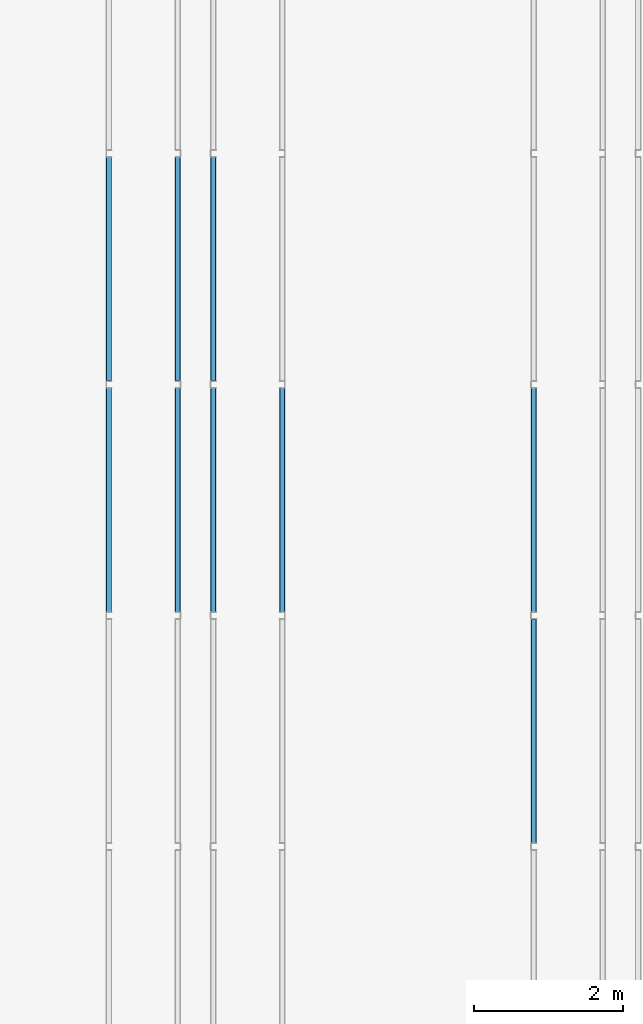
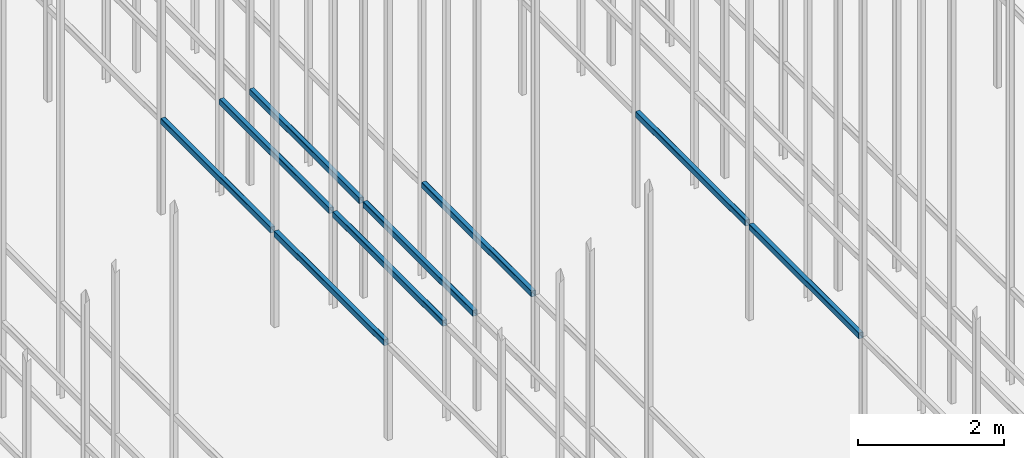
# One storey, part 148 of 302: 9 beams.
"""IFC2X3 building model written with IfcOpenShell, lengths in metres."""

from ifc_helpers import new_model, entity, si_unit, converted_unit, derived_unit, direction, frame, frame_2d, origin, place, context, subcontext, project, spatial, polyline, circle_curve, parameter, trimmed, segment, composite_curve, outline, extrude, material, type_object, element, save


model = new_model("IFC2X3")

# Units and contexts
model_context = context("Model", 3, precision=1e-05, world=origin(), true_north=direction((6.12303176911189e-17, 1.0)))
body_context = subcontext(model_context, "Body", "Model", "MODEL_VIEW")
ifc_project = project(units=[si_unit("LENGTHUNIT", "METRE"), si_unit("AREAUNIT", "SQUARE_METRE"), si_unit("VOLUMEUNIT", "CUBIC_METRE"), converted_unit("PLANEANGLEUNIT", "DEGREE", entity("IfcRatioMeasure", 0.0174532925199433), si_unit("PLANEANGLEUNIT", "RADIAN"), dimensions=[0, 0, 0, 0, 0, 0, 0]), si_unit("MASSUNIT", "GRAM", prefix="KILO"), derived_unit("MASSDENSITYUNIT", [(si_unit("MASSUNIT", "GRAM", prefix="KILO"), 1), (si_unit("LENGTHUNIT", "METRE"), -3)]), derived_unit("MOMENTOFINERTIAUNIT", [(si_unit("LENGTHUNIT", "METRE"), 4)]), si_unit("TIMEUNIT", "SECOND"), si_unit("FREQUENCYUNIT", "HERTZ"), si_unit("THERMODYNAMICTEMPERATUREUNIT", "DEGREE_CELSIUS"), derived_unit("THERMALTRANSMITTANCEUNIT", [(si_unit("MASSUNIT", "GRAM", prefix="KILO"), 1), (si_unit("THERMODYNAMICTEMPERATUREUNIT", "KELVIN"), -1), (si_unit("TIMEUNIT", "SECOND"), -3)]), derived_unit("VOLUMETRICFLOWRATEUNIT", [(si_unit("LENGTHUNIT", "METRE"), 3), (si_unit("TIMEUNIT", "SECOND"), -1)]), si_unit("ELECTRICCURRENTUNIT", "AMPERE"), si_unit("ELECTRICVOLTAGEUNIT", "VOLT"), si_unit("POWERUNIT", "WATT"), si_unit("FORCEUNIT", "NEWTON", prefix="KILO"), si_unit("ILLUMINANCEUNIT", "LUX"), si_unit("LUMINOUSFLUXUNIT", "LUMEN"), si_unit("LUMINOUSINTENSITYUNIT", "CANDELA"), derived_unit("USERDEFINED", [(si_unit("MASSUNIT", "GRAM", prefix="KILO"), -1), (si_unit("LENGTHUNIT", "METRE"), -2), (si_unit("TIMEUNIT", "SECOND"), 3), (si_unit("LUMINOUSFLUXUNIT", "LUMEN"), 1)]), derived_unit("LINEARVELOCITYUNIT", [(si_unit("LENGTHUNIT", "METRE"), 1), (si_unit("TIMEUNIT", "SECOND"), -1)]), si_unit("PRESSUREUNIT", "PASCAL"), derived_unit("USERDEFINED", [(si_unit("LENGTHUNIT", "METRE"), -2), (si_unit("MASSUNIT", "GRAM", prefix="KILO"), 1), (si_unit("TIMEUNIT", "SECOND"), -2)]), derived_unit("LINEARFORCEUNIT", [(si_unit("MASSUNIT", "GRAM", prefix="KILO"), 1), (si_unit("LENGTHUNIT", "METRE"), 1), (si_unit("TIMEUNIT", "SECOND"), -2), (si_unit("LENGTHUNIT", "METRE"), -1)]), derived_unit("PLANARFORCEUNIT", [(si_unit("MASSUNIT", "GRAM", prefix="KILO"), 1), (si_unit("LENGTHUNIT", "METRE"), 1), (si_unit("TIMEUNIT", "SECOND"), -2), (si_unit("LENGTHUNIT", "METRE"), -2)])], contexts=[model_context])

# Site, building, storey
site_placement = place(None, origin())
site = spatial("IfcSite", under=ifc_project, at=site_placement, Name="Default", CompositionType="ELEMENT")
building_placement = place(site_placement, origin())
building = spatial("IfcBuilding", under=site, at=building_placement, CompositionType="ELEMENT")
storey_placement = place(building_placement, frame((0.0, 0.0, -1.3)))
storey = spatial("IfcBuildingStorey", under=building, at=storey_placement, Name="00_EG", CompositionType="ELEMENT", Elevation=-1.3)

# Beams
ifc_material = material(Name="Metall - Baustahl S235 blau")
beam_type = type_object("IfcBeamType", Name="RHS Träger (EN 10219-2):RHS 100 x 75 x 5", PredefinedType="NOTDEFINED")
beam_1_placement = place(storey_placement, frame((-185.015111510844, 30.248088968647, 2.885), z_axis=(0.0, 0.0, 1.0), x_axis=(0.0, 1.0, 0.0)))
element("IfcBeam", 1, at=beam_1_placement, inside=storey, type_object=beam_type, material=ifc_material, Name="RHS Träger (EN 10219-2):RHS 100 x 75 x 5", ObjectType="RHS Träger (EN 10219-2):RHS 100 x 75 x 5", context=body_context, shape_type="SweptSolid", body=[
    extrude(outline(composite_curve([segment(trimmed(circle_curve(frame_2d((-0.0274999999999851, -0.0400000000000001), x_axis=(1.0, 0.0)), 0.01), [parameter(180.0)], [parameter(270.0)], True, "PARAMETER"), True, "CONTINUOUS"), segment(polyline([(-0.0274999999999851, -0.05), (0.0274999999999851, -0.05)]), True, "CONTINUOUS"), segment(trimmed(circle_curve(frame_2d((0.0274999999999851, -0.0400000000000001), x_axis=(1.0, 0.0)), 0.01), [parameter(270.0)], [parameter(5.08888749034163e-14)], True, "PARAMETER"), True, "CONTINUOUS"), segment(polyline([(0.0375000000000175, -0.0399999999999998), (0.0375000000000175, 0.0400000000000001)]), True, "CONTINUOUS"), segment(trimmed(circle_curve(frame_2d((0.0274999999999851, 0.0399999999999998), x_axis=(1.0, 0.0)), 0.01), [parameter(360.0)], [parameter(89.9999999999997)], True, "PARAMETER"), True, "CONTINUOUS"), segment(polyline([(0.0274999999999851, 0.05), (-0.0274999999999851, 0.05)]), True, "CONTINUOUS"), segment(trimmed(circle_curve(frame_2d((-0.0274999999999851, 0.0399999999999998), x_axis=(1.0, 0.0)), 0.01), [parameter(90.0000000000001)], [parameter(180.0)], True, "PARAMETER"), True, "CONTINUOUS"), segment(polyline([(-0.0374999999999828, 0.0400000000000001), (-0.0374999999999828, -0.0399999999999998)]), True, "CONTINUOUS")], self_intersect=False), holes=[composite_curve([segment(polyline([(0.0274999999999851, -0.0450000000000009), (-0.0274999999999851, -0.0450000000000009)]), True, "CONTINUOUS"), segment(trimmed(circle_curve(frame_2d((-0.0274999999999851, -0.0400000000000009), x_axis=(1.0, 0.0)), 0.005), [parameter(180.0)], [parameter(270.0)], True, "PARAMETER"), False, "CONTINUOUS"), segment(polyline([(-0.0325000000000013, -0.0400000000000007), (-0.0325000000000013, 0.0399999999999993)]), True, "CONTINUOUS"), segment(trimmed(circle_curve(frame_2d((-0.0274999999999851, 0.039999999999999), x_axis=(1.0, 0.0)), 0.005), [parameter(90.0000000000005)], [parameter(180.0)], True, "PARAMETER"), False, "CONTINUOUS"), segment(polyline([(-0.0274999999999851, 0.0449999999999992), (0.0274999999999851, 0.0449999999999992)]), True, "CONTINUOUS"), segment(trimmed(circle_curve(frame_2d((0.0274999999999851, 0.039999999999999), x_axis=(1.0, 0.0)), 0.005), [parameter(0.0)], [parameter(90.0000000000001)], True, "PARAMETER"), False, "CONTINUOUS"), segment(polyline([(0.0325000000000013, 0.0399999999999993), (0.0325000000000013, -0.0400000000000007)]), True, "CONTINUOUS"), segment(trimmed(circle_curve(frame_2d((0.0274999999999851, -0.0400000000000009), x_axis=(1.0, 0.0)), 0.005), [parameter(270.0)], [parameter(4.07110999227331e-13)], True, "PARAMETER"), False, "CONTINUOUS")], self_intersect=False)]), frame((9.99999999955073e-05, 0.0375000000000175, -0.0500000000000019), z_axis=(1.0, 0.0, 0.0), x_axis=(0.0, -1.0, 0.0)), (0.0, 0.0, 1.0), 2.9998),
])
beam_2_placement = place(storey_placement, frame((-190.715111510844, 33.348088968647, 2.885), z_axis=(0.0, 0.0, 1.0), x_axis=(0.0, 1.0, 0.0)))
element("IfcBeam", 2, at=beam_2_placement, inside=storey, type_object=beam_type, material=ifc_material, Name="RHS Träger (EN 10219-2):RHS 100 x 75 x 5", ObjectType="RHS Träger (EN 10219-2):RHS 100 x 75 x 5", context=body_context, shape_type="SweptSolid", body=[
    extrude(outline(composite_curve([segment(trimmed(circle_curve(frame_2d((-0.0274999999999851, -0.0400000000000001), x_axis=(1.0, 0.0)), 0.01), [parameter(180.0)], [parameter(270.0)], True, "PARAMETER"), True, "CONTINUOUS"), segment(polyline([(-0.0274999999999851, -0.05), (0.0274999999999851, -0.05)]), True, "CONTINUOUS"), segment(trimmed(circle_curve(frame_2d((0.0274999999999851, -0.0400000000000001), x_axis=(1.0, 0.0)), 0.01), [parameter(270.0)], [parameter(5.08888749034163e-14)], True, "PARAMETER"), True, "CONTINUOUS"), segment(polyline([(0.0375000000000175, -0.0399999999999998), (0.0375000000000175, 0.0400000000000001)]), True, "CONTINUOUS"), segment(trimmed(circle_curve(frame_2d((0.0274999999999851, 0.0399999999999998), x_axis=(1.0, 0.0)), 0.01), [parameter(360.0)], [parameter(89.9999999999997)], True, "PARAMETER"), True, "CONTINUOUS"), segment(polyline([(0.0274999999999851, 0.05), (-0.0274999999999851, 0.05)]), True, "CONTINUOUS"), segment(trimmed(circle_curve(frame_2d((-0.0274999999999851, 0.0399999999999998), x_axis=(1.0, 0.0)), 0.01), [parameter(90.0000000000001)], [parameter(180.0)], True, "PARAMETER"), True, "CONTINUOUS"), segment(polyline([(-0.0374999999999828, 0.0400000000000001), (-0.0374999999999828, -0.0399999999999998)]), True, "CONTINUOUS")], self_intersect=False), holes=[composite_curve([segment(polyline([(0.0274999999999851, -0.0450000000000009), (-0.0274999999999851, -0.0450000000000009)]), True, "CONTINUOUS"), segment(trimmed(circle_curve(frame_2d((-0.0274999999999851, -0.0400000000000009), x_axis=(1.0, 0.0)), 0.005), [parameter(180.0)], [parameter(270.0)], True, "PARAMETER"), False, "CONTINUOUS"), segment(polyline([(-0.0325000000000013, -0.0400000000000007), (-0.0325000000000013, 0.0399999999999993)]), True, "CONTINUOUS"), segment(trimmed(circle_curve(frame_2d((-0.0274999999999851, 0.039999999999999), x_axis=(1.0, 0.0)), 0.005), [parameter(90.0000000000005)], [parameter(180.0)], True, "PARAMETER"), False, "CONTINUOUS"), segment(polyline([(-0.0274999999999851, 0.0449999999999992), (0.0274999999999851, 0.0449999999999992)]), True, "CONTINUOUS"), segment(trimmed(circle_curve(frame_2d((0.0274999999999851, 0.039999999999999), x_axis=(1.0, 0.0)), 0.005), [parameter(0.0)], [parameter(90.0000000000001)], True, "PARAMETER"), False, "CONTINUOUS"), segment(polyline([(0.0325000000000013, 0.0399999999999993), (0.0325000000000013, -0.0400000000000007)]), True, "CONTINUOUS"), segment(trimmed(circle_curve(frame_2d((0.0274999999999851, -0.0400000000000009), x_axis=(1.0, 0.0)), 0.005), [parameter(270.0)], [parameter(4.07110999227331e-13)], True, "PARAMETER"), False, "CONTINUOUS")], self_intersect=False)]), frame((9.99999999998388e-05, 0.0375000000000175, -0.0500000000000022), z_axis=(1.0, 0.0, 0.0), x_axis=(0.0, -1.0, 0.0)), (0.0, 0.0, 1.0), 2.9998),
])
beam_3_placement = place(storey_placement, frame((-189.865111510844, 33.348088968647, 2.885), z_axis=(0.0, 0.0, 1.0), x_axis=(0.0, 1.0, 0.0)))
element("IfcBeam", 3, at=beam_3_placement, inside=storey, type_object=beam_type, material=ifc_material, Name="RHS Träger (EN 10219-2):RHS 100 x 75 x 5", ObjectType="RHS Träger (EN 10219-2):RHS 100 x 75 x 5", context=body_context, shape_type="SweptSolid", body=[
    extrude(outline(composite_curve([segment(polyline([(-0.0399999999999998, -0.0375000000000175), (0.0400000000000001, -0.0375000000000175)]), True, "CONTINUOUS"), segment(trimmed(circle_curve(frame_2d((0.0399999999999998, -0.0275000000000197), x_axis=(0.0, 1.0)), 0.01), [parameter(180.0)], [parameter(270.0)], True, "PARAMETER"), True, "CONTINUOUS"), segment(polyline([(0.05, -0.0275000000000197), (0.05, 0.0274999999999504)]), True, "CONTINUOUS"), segment(trimmed(circle_curve(frame_2d((0.0399999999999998, 0.0274999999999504), x_axis=(0.0, 1.0)), 0.01), [parameter(270.0)], [parameter(4.07110999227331e-13)], True, "PARAMETER"), True, "CONTINUOUS"), segment(polyline([(0.0400000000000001, 0.0374999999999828), (-0.0399999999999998, 0.0374999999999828)]), True, "CONTINUOUS"), segment(trimmed(circle_curve(frame_2d((-0.0400000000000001, 0.0274999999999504), x_axis=(0.0, 1.0)), 0.01), [parameter(360.0)], [parameter(90.0000000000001)], True, "PARAMETER"), True, "CONTINUOUS"), segment(polyline([(-0.05, 0.0274999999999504), (-0.05, -0.0275000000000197)]), True, "CONTINUOUS"), segment(trimmed(circle_curve(frame_2d((-0.0400000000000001, -0.0275000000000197), x_axis=(0.0, 1.0)), 0.01), [parameter(90.0000000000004)], [parameter(180.0)], True, "PARAMETER"), True, "CONTINUOUS")], self_intersect=False), holes=[composite_curve([segment(trimmed(circle_curve(frame_2d((-0.0400000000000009, 0.0274999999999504), x_axis=(0.0, 1.0)), 0.005), [parameter(360.0)], [parameter(89.9999999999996)], True, "PARAMETER"), False, "CONTINUOUS"), segment(polyline([(-0.0400000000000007, 0.0324999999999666), (0.0399999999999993, 0.0324999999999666)]), True, "CONTINUOUS"), segment(trimmed(circle_curve(frame_2d((0.039999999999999, 0.0274999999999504), x_axis=(0.0, 1.0)), 0.005), [parameter(270.0)], [parameter(0.0)], True, "PARAMETER"), False, "CONTINUOUS"), segment(polyline([(0.0449999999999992, 0.0274999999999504), (0.0449999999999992, -0.0275000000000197)]), True, "CONTINUOUS"), segment(trimmed(circle_curve(frame_2d((0.039999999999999, -0.0275000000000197), x_axis=(0.0, 1.0)), 0.005), [parameter(180.0)], [parameter(269.999999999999)], True, "PARAMETER"), False, "CONTINUOUS"), segment(polyline([(0.0399999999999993, -0.0325000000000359), (-0.0400000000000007, -0.0325000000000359)]), True, "CONTINUOUS"), segment(trimmed(circle_curve(frame_2d((-0.0400000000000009, -0.0275000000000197), x_axis=(0.0, 1.0)), 0.005), [parameter(90.0000000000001)], [parameter(180.0)], True, "PARAMETER"), False, "CONTINUOUS"), segment(polyline([(-0.0450000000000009, -0.0275000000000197), (-0.0450000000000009, 0.0274999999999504)]), True, "CONTINUOUS")], self_intersect=False)]), frame((9.99999999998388e-05, -0.0374999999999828, -0.0500000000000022), z_axis=(1.0, 0.0, 0.0), x_axis=(0.0, 0.0, -1.0)), (0.0, 0.0, 1.0), 2.9998),
])
beam_4_placement = place(storey_placement, frame((-189.315111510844, 33.348088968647, 2.885), z_axis=(0.0, 0.0, 1.0), x_axis=(0.0, 1.0, 0.0)))
element("IfcBeam", 4, at=beam_4_placement, inside=storey, type_object=beam_type, material=ifc_material, Name="RHS Träger (EN 10219-2):RHS 100 x 75 x 5", ObjectType="RHS Träger (EN 10219-2):RHS 100 x 75 x 5", context=body_context, shape_type="SweptSolid", body=[
    extrude(outline(composite_curve([segment(trimmed(circle_curve(frame_2d((-0.0274999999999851, -0.0400000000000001), x_axis=(1.0, 0.0)), 0.01), [parameter(180.0)], [parameter(270.0)], True, "PARAMETER"), True, "CONTINUOUS"), segment(polyline([(-0.0274999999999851, -0.05), (0.0274999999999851, -0.05)]), True, "CONTINUOUS"), segment(trimmed(circle_curve(frame_2d((0.0274999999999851, -0.0400000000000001), x_axis=(1.0, 0.0)), 0.01), [parameter(270.0)], [parameter(5.08888749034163e-14)], True, "PARAMETER"), True, "CONTINUOUS"), segment(polyline([(0.0375000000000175, -0.0399999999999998), (0.0375000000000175, 0.0400000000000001)]), True, "CONTINUOUS"), segment(trimmed(circle_curve(frame_2d((0.0274999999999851, 0.0399999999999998), x_axis=(1.0, 0.0)), 0.01), [parameter(360.0)], [parameter(89.9999999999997)], True, "PARAMETER"), True, "CONTINUOUS"), segment(polyline([(0.0274999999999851, 0.05), (-0.0274999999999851, 0.05)]), True, "CONTINUOUS"), segment(trimmed(circle_curve(frame_2d((-0.0274999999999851, 0.0399999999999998), x_axis=(1.0, 0.0)), 0.01), [parameter(90.0000000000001)], [parameter(180.0)], True, "PARAMETER"), True, "CONTINUOUS"), segment(polyline([(-0.0374999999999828, 0.0400000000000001), (-0.0374999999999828, -0.0399999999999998)]), True, "CONTINUOUS")], self_intersect=False), holes=[composite_curve([segment(polyline([(0.0274999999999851, -0.0450000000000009), (-0.0274999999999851, -0.0450000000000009)]), True, "CONTINUOUS"), segment(trimmed(circle_curve(frame_2d((-0.0274999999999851, -0.0400000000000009), x_axis=(1.0, 0.0)), 0.005), [parameter(180.0)], [parameter(270.0)], True, "PARAMETER"), False, "CONTINUOUS"), segment(polyline([(-0.0325000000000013, -0.0400000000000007), (-0.0325000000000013, 0.0399999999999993)]), True, "CONTINUOUS"), segment(trimmed(circle_curve(frame_2d((-0.0274999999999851, 0.039999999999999), x_axis=(1.0, 0.0)), 0.005), [parameter(90.0000000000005)], [parameter(180.0)], True, "PARAMETER"), False, "CONTINUOUS"), segment(polyline([(-0.0274999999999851, 0.0449999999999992), (0.0274999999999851, 0.0449999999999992)]), True, "CONTINUOUS"), segment(trimmed(circle_curve(frame_2d((0.0274999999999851, 0.039999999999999), x_axis=(1.0, 0.0)), 0.005), [parameter(0.0)], [parameter(90.0000000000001)], True, "PARAMETER"), False, "CONTINUOUS"), segment(polyline([(0.0325000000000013, 0.0399999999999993), (0.0325000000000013, -0.0400000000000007)]), True, "CONTINUOUS"), segment(trimmed(circle_curve(frame_2d((0.0274999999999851, -0.0400000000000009), x_axis=(1.0, 0.0)), 0.005), [parameter(270.0)], [parameter(4.07110999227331e-13)], True, "PARAMETER"), False, "CONTINUOUS")], self_intersect=False)]), frame((0.00010000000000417, 0.0375000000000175, -0.0500000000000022), z_axis=(1.0, 0.0, 0.0), x_axis=(0.0, -1.0, 0.0)), (0.0, 0.0, 1.0), 2.9998),
])
beam_5_placement = place(storey_placement, frame((-188.465111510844, 33.348088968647, 2.885), z_axis=(0.0, 0.0, 1.0), x_axis=(0.0, 1.0, 0.0)))
element("IfcBeam", 5, at=beam_5_placement, inside=storey, type_object=beam_type, material=ifc_material, Name="RHS Träger (EN 10219-2):RHS 100 x 75 x 5", ObjectType="RHS Träger (EN 10219-2):RHS 100 x 75 x 5", context=body_context, shape_type="SweptSolid", body=[
    extrude(outline(composite_curve([segment(polyline([(-0.0399999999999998, -0.0374999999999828), (0.0400000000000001, -0.0374999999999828)]), True, "CONTINUOUS"), segment(trimmed(circle_curve(frame_2d((0.0399999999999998, -0.0274999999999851), x_axis=(0.0, 1.0)), 0.01), [parameter(180.0)], [parameter(270.0)], True, "PARAMETER"), True, "CONTINUOUS"), segment(polyline([(0.05, -0.0274999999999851), (0.05, 0.0274999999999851)]), True, "CONTINUOUS"), segment(trimmed(circle_curve(frame_2d((0.0399999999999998, 0.0274999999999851), x_axis=(0.0, 1.0)), 0.01), [parameter(270.0)], [parameter(4.07110999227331e-13)], True, "PARAMETER"), True, "CONTINUOUS"), segment(polyline([(0.0400000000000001, 0.0375000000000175), (-0.0399999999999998, 0.0375000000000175)]), True, "CONTINUOUS"), segment(trimmed(circle_curve(frame_2d((-0.0400000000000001, 0.0274999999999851), x_axis=(0.0, 1.0)), 0.01), [parameter(360.0)], [parameter(90.0000000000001)], True, "PARAMETER"), True, "CONTINUOUS"), segment(polyline([(-0.05, 0.0274999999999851), (-0.05, -0.0274999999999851)]), True, "CONTINUOUS"), segment(trimmed(circle_curve(frame_2d((-0.0400000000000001, -0.0274999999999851), x_axis=(0.0, 1.0)), 0.01), [parameter(90.0000000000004)], [parameter(180.0)], True, "PARAMETER"), True, "CONTINUOUS")], self_intersect=False), holes=[composite_curve([segment(trimmed(circle_curve(frame_2d((-0.0400000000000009, 0.0274999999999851), x_axis=(0.0, 1.0)), 0.005), [parameter(360.0)], [parameter(89.9999999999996)], True, "PARAMETER"), False, "CONTINUOUS"), segment(polyline([(-0.0400000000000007, 0.0325000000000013), (0.0399999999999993, 0.0325000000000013)]), True, "CONTINUOUS"), segment(trimmed(circle_curve(frame_2d((0.039999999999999, 0.0274999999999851), x_axis=(0.0, 1.0)), 0.005), [parameter(270.0)], [parameter(0.0)], True, "PARAMETER"), False, "CONTINUOUS"), segment(polyline([(0.0449999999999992, 0.0274999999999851), (0.0449999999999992, -0.0274999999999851)]), True, "CONTINUOUS"), segment(trimmed(circle_curve(frame_2d((0.039999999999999, -0.0274999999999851), x_axis=(0.0, 1.0)), 0.005), [parameter(180.0)], [parameter(269.999999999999)], True, "PARAMETER"), False, "CONTINUOUS"), segment(polyline([(0.0399999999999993, -0.0325000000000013), (-0.0400000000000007, -0.0325000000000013)]), True, "CONTINUOUS"), segment(trimmed(circle_curve(frame_2d((-0.0400000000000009, -0.0274999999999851), x_axis=(0.0, 1.0)), 0.005), [parameter(90.0000000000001)], [parameter(180.0)], True, "PARAMETER"), False, "CONTINUOUS"), segment(polyline([(-0.0450000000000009, -0.0274999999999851), (-0.0450000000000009, 0.0274999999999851)]), True, "CONTINUOUS")], self_intersect=False)]), frame((0.00010000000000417, -0.0375000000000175, -0.0500000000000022), z_axis=(1.0, 0.0, 0.0), x_axis=(0.0, 0.0, -1.0)), (0.0, 0.0, 1.0), 2.9998),
])
beam_6_placement = place(storey_placement, frame((-185.015111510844, 33.348088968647, 2.885), z_axis=(0.0, 0.0, 1.0), x_axis=(0.0, 1.0, 0.0)))
element("IfcBeam", 6, at=beam_6_placement, inside=storey, type_object=beam_type, material=ifc_material, Name="RHS Träger (EN 10219-2):RHS 100 x 75 x 5", ObjectType="RHS Träger (EN 10219-2):RHS 100 x 75 x 5", context=body_context, shape_type="SweptSolid", body=[
    extrude(outline(composite_curve([segment(trimmed(circle_curve(frame_2d((-0.0274999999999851, -0.0400000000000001), x_axis=(1.0, 0.0)), 0.01), [parameter(180.0)], [parameter(270.0)], True, "PARAMETER"), True, "CONTINUOUS"), segment(polyline([(-0.0274999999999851, -0.05), (0.0274999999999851, -0.05)]), True, "CONTINUOUS"), segment(trimmed(circle_curve(frame_2d((0.0274999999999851, -0.0400000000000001), x_axis=(1.0, 0.0)), 0.01), [parameter(270.0)], [parameter(5.08888749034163e-14)], True, "PARAMETER"), True, "CONTINUOUS"), segment(polyline([(0.0375000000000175, -0.0399999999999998), (0.0375000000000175, 0.0400000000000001)]), True, "CONTINUOUS"), segment(trimmed(circle_curve(frame_2d((0.0274999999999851, 0.0399999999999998), x_axis=(1.0, 0.0)), 0.01), [parameter(360.0)], [parameter(89.9999999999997)], True, "PARAMETER"), True, "CONTINUOUS"), segment(polyline([(0.0274999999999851, 0.05), (-0.0274999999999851, 0.05)]), True, "CONTINUOUS"), segment(trimmed(circle_curve(frame_2d((-0.0274999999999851, 0.0399999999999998), x_axis=(1.0, 0.0)), 0.01), [parameter(90.0000000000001)], [parameter(180.0)], True, "PARAMETER"), True, "CONTINUOUS"), segment(polyline([(-0.0374999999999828, 0.0400000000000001), (-0.0374999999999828, -0.0399999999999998)]), True, "CONTINUOUS")], self_intersect=False), holes=[composite_curve([segment(polyline([(0.0274999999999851, -0.0450000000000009), (-0.0274999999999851, -0.0450000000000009)]), True, "CONTINUOUS"), segment(trimmed(circle_curve(frame_2d((-0.0274999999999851, -0.0400000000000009), x_axis=(1.0, 0.0)), 0.005), [parameter(180.0)], [parameter(270.0)], True, "PARAMETER"), False, "CONTINUOUS"), segment(polyline([(-0.0325000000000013, -0.0400000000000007), (-0.0325000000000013, 0.0399999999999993)]), True, "CONTINUOUS"), segment(trimmed(circle_curve(frame_2d((-0.0274999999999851, 0.039999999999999), x_axis=(1.0, 0.0)), 0.005), [parameter(90.0000000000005)], [parameter(180.0)], True, "PARAMETER"), False, "CONTINUOUS"), segment(polyline([(-0.0274999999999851, 0.0449999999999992), (0.0274999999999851, 0.0449999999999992)]), True, "CONTINUOUS"), segment(trimmed(circle_curve(frame_2d((0.0274999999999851, 0.039999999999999), x_axis=(1.0, 0.0)), 0.005), [parameter(0.0)], [parameter(90.0000000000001)], True, "PARAMETER"), False, "CONTINUOUS"), segment(polyline([(0.0325000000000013, 0.0399999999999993), (0.0325000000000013, -0.0400000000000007)]), True, "CONTINUOUS"), segment(trimmed(circle_curve(frame_2d((0.0274999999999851, -0.0400000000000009), x_axis=(1.0, 0.0)), 0.005), [parameter(270.0)], [parameter(4.07110999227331e-13)], True, "PARAMETER"), False, "CONTINUOUS")], self_intersect=False)]), frame((9.99999999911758e-05, 0.0375000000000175, -0.0500000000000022), z_axis=(1.0, 0.0, 0.0), x_axis=(0.0, -1.0, 0.0)), (0.0, 0.0, 1.0), 2.9998),
])
beam_7_placement = place(storey_placement, frame((-190.715111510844, 36.448088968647, 2.885), z_axis=(0.0, 0.0, 1.0), x_axis=(0.0, 1.0, 0.0)))
element("IfcBeam", 7, at=beam_7_placement, inside=storey, type_object=beam_type, material=ifc_material, Name="RHS Träger (EN 10219-2):RHS 100 x 75 x 5", ObjectType="RHS Träger (EN 10219-2):RHS 100 x 75 x 5", context=body_context, shape_type="SweptSolid", body=[
    extrude(outline(composite_curve([segment(trimmed(circle_curve(frame_2d((-0.0274999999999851, -0.0400000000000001), x_axis=(1.0, 0.0)), 0.01), [parameter(180.0)], [parameter(270.0)], True, "PARAMETER"), True, "CONTINUOUS"), segment(polyline([(-0.0274999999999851, -0.05), (0.0274999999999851, -0.05)]), True, "CONTINUOUS"), segment(trimmed(circle_curve(frame_2d((0.0274999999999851, -0.0400000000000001), x_axis=(1.0, 0.0)), 0.01), [parameter(270.0)], [parameter(5.08888749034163e-14)], True, "PARAMETER"), True, "CONTINUOUS"), segment(polyline([(0.0375000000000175, -0.0399999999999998), (0.0375000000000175, 0.0400000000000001)]), True, "CONTINUOUS"), segment(trimmed(circle_curve(frame_2d((0.0274999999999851, 0.0399999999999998), x_axis=(1.0, 0.0)), 0.01), [parameter(360.0)], [parameter(89.9999999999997)], True, "PARAMETER"), True, "CONTINUOUS"), segment(polyline([(0.0274999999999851, 0.05), (-0.0274999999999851, 0.05)]), True, "CONTINUOUS"), segment(trimmed(circle_curve(frame_2d((-0.0274999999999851, 0.0399999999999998), x_axis=(1.0, 0.0)), 0.01), [parameter(90.0000000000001)], [parameter(180.0)], True, "PARAMETER"), True, "CONTINUOUS"), segment(polyline([(-0.0374999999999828, 0.0400000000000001), (-0.0374999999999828, -0.0399999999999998)]), True, "CONTINUOUS")], self_intersect=False), holes=[composite_curve([segment(polyline([(0.0274999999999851, -0.0450000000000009), (-0.0274999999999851, -0.0450000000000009)]), True, "CONTINUOUS"), segment(trimmed(circle_curve(frame_2d((-0.0274999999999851, -0.0400000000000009), x_axis=(1.0, 0.0)), 0.005), [parameter(180.0)], [parameter(270.0)], True, "PARAMETER"), False, "CONTINUOUS"), segment(polyline([(-0.0325000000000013, -0.0400000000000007), (-0.0325000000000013, 0.0399999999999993)]), True, "CONTINUOUS"), segment(trimmed(circle_curve(frame_2d((-0.0274999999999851, 0.039999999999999), x_axis=(1.0, 0.0)), 0.005), [parameter(90.0000000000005)], [parameter(180.0)], True, "PARAMETER"), False, "CONTINUOUS"), segment(polyline([(-0.0274999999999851, 0.0449999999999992), (0.0274999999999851, 0.0449999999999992)]), True, "CONTINUOUS"), segment(trimmed(circle_curve(frame_2d((0.0274999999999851, 0.039999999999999), x_axis=(1.0, 0.0)), 0.005), [parameter(0.0)], [parameter(90.0000000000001)], True, "PARAMETER"), False, "CONTINUOUS"), segment(polyline([(0.0325000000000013, 0.0399999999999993), (0.0325000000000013, -0.0400000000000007)]), True, "CONTINUOUS"), segment(trimmed(circle_curve(frame_2d((0.0274999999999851, -0.0400000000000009), x_axis=(1.0, 0.0)), 0.005), [parameter(270.0)], [parameter(4.07110999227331e-13)], True, "PARAMETER"), False, "CONTINUOUS")], self_intersect=False)]), frame((9.99999999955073e-05, 0.0375000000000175, -0.0500000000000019), z_axis=(1.0, 0.0, 0.0), x_axis=(0.0, -1.0, 0.0)), (0.0, 0.0, 1.0), 2.9998),
])
beam_8_placement = place(storey_placement, frame((-189.865111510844, 36.448088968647, 2.885), z_axis=(0.0, 0.0, 1.0), x_axis=(0.0, 1.0, 0.0)))
element("IfcBeam", 8, at=beam_8_placement, inside=storey, type_object=beam_type, material=ifc_material, Name="RHS Träger (EN 10219-2):RHS 100 x 75 x 5", ObjectType="RHS Träger (EN 10219-2):RHS 100 x 75 x 5", context=body_context, shape_type="SweptSolid", body=[
    extrude(outline(composite_curve([segment(polyline([(-0.0399999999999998, -0.0375000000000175), (0.0400000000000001, -0.0375000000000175)]), True, "CONTINUOUS"), segment(trimmed(circle_curve(frame_2d((0.0399999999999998, -0.0275000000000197), x_axis=(0.0, 1.0)), 0.01), [parameter(180.0)], [parameter(270.0)], True, "PARAMETER"), True, "CONTINUOUS"), segment(polyline([(0.05, -0.0275000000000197), (0.05, 0.0274999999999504)]), True, "CONTINUOUS"), segment(trimmed(circle_curve(frame_2d((0.0399999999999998, 0.0274999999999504), x_axis=(0.0, 1.0)), 0.01), [parameter(270.0)], [parameter(4.07110999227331e-13)], True, "PARAMETER"), True, "CONTINUOUS"), segment(polyline([(0.0400000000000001, 0.0374999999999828), (-0.0399999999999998, 0.0374999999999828)]), True, "CONTINUOUS"), segment(trimmed(circle_curve(frame_2d((-0.0400000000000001, 0.0274999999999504), x_axis=(0.0, 1.0)), 0.01), [parameter(360.0)], [parameter(90.0000000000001)], True, "PARAMETER"), True, "CONTINUOUS"), segment(polyline([(-0.05, 0.0274999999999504), (-0.05, -0.0275000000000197)]), True, "CONTINUOUS"), segment(trimmed(circle_curve(frame_2d((-0.0400000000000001, -0.0275000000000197), x_axis=(0.0, 1.0)), 0.01), [parameter(90.0000000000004)], [parameter(180.0)], True, "PARAMETER"), True, "CONTINUOUS")], self_intersect=False), holes=[composite_curve([segment(trimmed(circle_curve(frame_2d((-0.0400000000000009, 0.0274999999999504), x_axis=(0.0, 1.0)), 0.005), [parameter(360.0)], [parameter(89.9999999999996)], True, "PARAMETER"), False, "CONTINUOUS"), segment(polyline([(-0.0400000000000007, 0.0324999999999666), (0.0399999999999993, 0.0324999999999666)]), True, "CONTINUOUS"), segment(trimmed(circle_curve(frame_2d((0.039999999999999, 0.0274999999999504), x_axis=(0.0, 1.0)), 0.005), [parameter(270.0)], [parameter(0.0)], True, "PARAMETER"), False, "CONTINUOUS"), segment(polyline([(0.0449999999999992, 0.0274999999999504), (0.0449999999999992, -0.0275000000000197)]), True, "CONTINUOUS"), segment(trimmed(circle_curve(frame_2d((0.039999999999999, -0.0275000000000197), x_axis=(0.0, 1.0)), 0.005), [parameter(180.0)], [parameter(269.999999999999)], True, "PARAMETER"), False, "CONTINUOUS"), segment(polyline([(0.0399999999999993, -0.0325000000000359), (-0.0400000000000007, -0.0325000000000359)]), True, "CONTINUOUS"), segment(trimmed(circle_curve(frame_2d((-0.0400000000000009, -0.0275000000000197), x_axis=(0.0, 1.0)), 0.005), [parameter(90.0000000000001)], [parameter(180.0)], True, "PARAMETER"), False, "CONTINUOUS"), segment(polyline([(-0.0450000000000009, -0.0275000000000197), (-0.0450000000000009, 0.0274999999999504)]), True, "CONTINUOUS")], self_intersect=False)]), frame((9.99999999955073e-05, -0.0374999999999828, -0.0500000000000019), z_axis=(1.0, 0.0, 0.0), x_axis=(0.0, 0.0, -1.0)), (0.0, 0.0, 1.0), 2.9998),
])
beam_9_placement = place(storey_placement, frame((-189.315111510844, 36.448088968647, 2.885), z_axis=(0.0, 0.0, 1.0), x_axis=(0.0, 1.0, 0.0)))
element("IfcBeam", 9, at=beam_9_placement, inside=storey, type_object=beam_type, material=ifc_material, Name="RHS Träger (EN 10219-2):RHS 100 x 75 x 5", ObjectType="RHS Träger (EN 10219-2):RHS 100 x 75 x 5", context=body_context, shape_type="SweptSolid", body=[
    extrude(outline(composite_curve([segment(trimmed(circle_curve(frame_2d((-0.0274999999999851, -0.0400000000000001), x_axis=(1.0, 0.0)), 0.01), [parameter(180.0)], [parameter(270.0)], True, "PARAMETER"), True, "CONTINUOUS"), segment(polyline([(-0.0274999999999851, -0.05), (0.0274999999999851, -0.05)]), True, "CONTINUOUS"), segment(trimmed(circle_curve(frame_2d((0.0274999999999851, -0.0400000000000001), x_axis=(1.0, 0.0)), 0.01), [parameter(270.0)], [parameter(5.08888749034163e-14)], True, "PARAMETER"), True, "CONTINUOUS"), segment(polyline([(0.0375000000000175, -0.0399999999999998), (0.0375000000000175, 0.0400000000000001)]), True, "CONTINUOUS"), segment(trimmed(circle_curve(frame_2d((0.0274999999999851, 0.0399999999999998), x_axis=(1.0, 0.0)), 0.01), [parameter(360.0)], [parameter(89.9999999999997)], True, "PARAMETER"), True, "CONTINUOUS"), segment(polyline([(0.0274999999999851, 0.05), (-0.0274999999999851, 0.05)]), True, "CONTINUOUS"), segment(trimmed(circle_curve(frame_2d((-0.0274999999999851, 0.0399999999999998), x_axis=(1.0, 0.0)), 0.01), [parameter(90.0000000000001)], [parameter(180.0)], True, "PARAMETER"), True, "CONTINUOUS"), segment(polyline([(-0.0374999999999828, 0.0400000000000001), (-0.0374999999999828, -0.0399999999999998)]), True, "CONTINUOUS")], self_intersect=False), holes=[composite_curve([segment(polyline([(0.0274999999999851, -0.0450000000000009), (-0.0274999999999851, -0.0450000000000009)]), True, "CONTINUOUS"), segment(trimmed(circle_curve(frame_2d((-0.0274999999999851, -0.0400000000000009), x_axis=(1.0, 0.0)), 0.005), [parameter(180.0)], [parameter(270.0)], True, "PARAMETER"), False, "CONTINUOUS"), segment(polyline([(-0.0325000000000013, -0.0400000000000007), (-0.0325000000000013, 0.0399999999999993)]), True, "CONTINUOUS"), segment(trimmed(circle_curve(frame_2d((-0.0274999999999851, 0.039999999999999), x_axis=(1.0, 0.0)), 0.005), [parameter(90.0000000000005)], [parameter(180.0)], True, "PARAMETER"), False, "CONTINUOUS"), segment(polyline([(-0.0274999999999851, 0.0449999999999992), (0.0274999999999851, 0.0449999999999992)]), True, "CONTINUOUS"), segment(trimmed(circle_curve(frame_2d((0.0274999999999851, 0.039999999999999), x_axis=(1.0, 0.0)), 0.005), [parameter(0.0)], [parameter(90.0000000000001)], True, "PARAMETER"), False, "CONTINUOUS"), segment(polyline([(0.0325000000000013, 0.0399999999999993), (0.0325000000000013, -0.0400000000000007)]), True, "CONTINUOUS"), segment(trimmed(circle_curve(frame_2d((0.0274999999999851, -0.0400000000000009), x_axis=(1.0, 0.0)), 0.005), [parameter(270.0)], [parameter(4.07110999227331e-13)], True, "PARAMETER"), False, "CONTINUOUS")], self_intersect=False)]), frame((9.99999999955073e-05, 0.0375000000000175, -0.0500000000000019), z_axis=(1.0, 0.0, 0.0), x_axis=(0.0, -1.0, 0.0)), (0.0, 0.0, 1.0), 2.9998),
])

save(model, "model.ifc")
